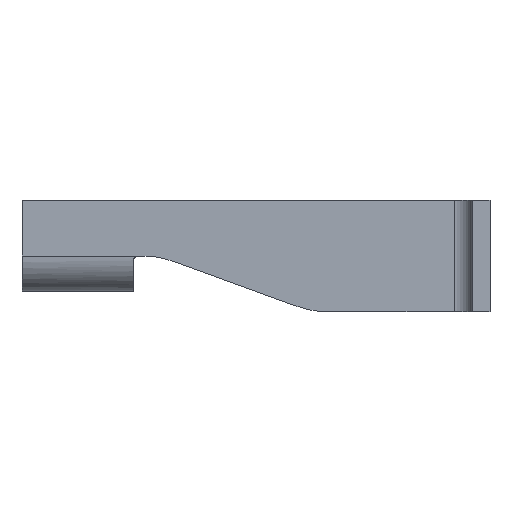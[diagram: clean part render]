
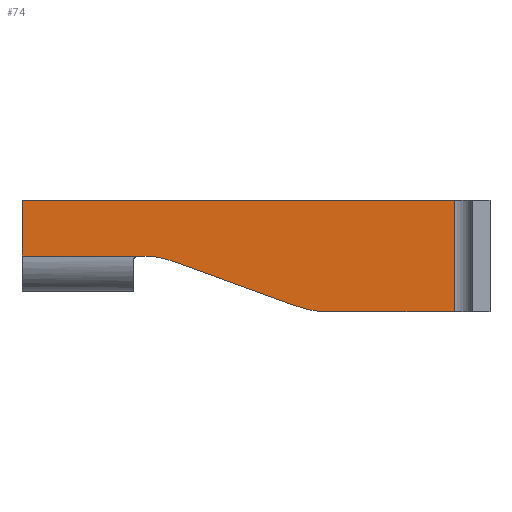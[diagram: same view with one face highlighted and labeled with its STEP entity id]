
A CAD part, front view. The second image highlights one B-rep face of the part: STEP entity #74.
In plain terms, the highlighted planar face has unit normal (0, -1, 0).
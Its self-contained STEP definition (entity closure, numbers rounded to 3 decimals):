
#74=ADVANCED_FACE('',(#112),#98,.T.);
#98=PLANE('',#496);
#112=FACE_OUTER_BOUND('',#129,.T.);
#129=EDGE_LOOP('',(#204,#205,#206,#207,#208,#209,#210,#211,#212));
#164=CIRCLE('',#494,20.);
#165=CIRCLE('',#495,20.);
#204=ORIENTED_EDGE('',*,*,#365,.T.);
#205=ORIENTED_EDGE('',*,*,#366,.T.);
#206=ORIENTED_EDGE('',*,*,#348,.T.);
#207=ORIENTED_EDGE('',*,*,#367,.T.);
#208=ORIENTED_EDGE('',*,*,#361,.F.);
#209=ORIENTED_EDGE('',*,*,#346,.F.);
#210=ORIENTED_EDGE('',*,*,#368,.T.);
#211=ORIENTED_EDGE('',*,*,#369,.T.);
#212=ORIENTED_EDGE('',*,*,#370,.T.);
#304=VERTEX_POINT('',#666);
#305=VERTEX_POINT('',#668);
#306=VERTEX_POINT('',#672);
#307=VERTEX_POINT('',#673);
#318=VERTEX_POINT('',#699);
#320=VERTEX_POINT('',#706);
#321=VERTEX_POINT('',#707);
#322=VERTEX_POINT('',#711);
#323=VERTEX_POINT('',#713);
#346=EDGE_CURVE('',#304,#305,#405,.T.);
#348=EDGE_CURVE('',#306,#307,#407,.T.);
#361=EDGE_CURVE('',#305,#318,#417,.T.);
#365=EDGE_CURVE('',#320,#321,#420,.T.);
#366=EDGE_CURVE('',#321,#306,#164,.T.);
#367=EDGE_CURVE('',#307,#318,#421,.T.);
#368=EDGE_CURVE('',#304,#322,#422,.T.);
#369=EDGE_CURVE('',#322,#323,#423,.T.);
#370=EDGE_CURVE('',#323,#320,#165,.T.);
#405=LINE('',#667,#446);
#407=LINE('',#671,#448);
#417=LINE('',#698,#458);
#420=LINE('',#705,#461);
#421=LINE('',#709,#462);
#422=LINE('',#710,#463);
#423=LINE('',#712,#464);
#446=VECTOR('',#536,1.);
#448=VECTOR('',#540,1.);
#458=VECTOR('',#560,1.);
#461=VECTOR('',#567,1.);
#462=VECTOR('',#570,1.);
#463=VECTOR('',#571,1.);
#464=VECTOR('',#572,1.);
#494=AXIS2_PLACEMENT_3D('',#708,#568,#569);
#495=AXIS2_PLACEMENT_3D('',#714,#573,#574);
#496=AXIS2_PLACEMENT_3D('',#715,#575,#576);
#536=DIRECTION('',(0.,0.,1.));
#540=DIRECTION('',(1.,0.,0.));
#560=DIRECTION('',(1.,0.,0.));
#567=DIRECTION('',(0.94,0.,-0.342));
#568=DIRECTION('',(0.,-1.,0.));
#569=DIRECTION('',(1.,0.,0.));
#570=DIRECTION('',(0.,0.,1.));
#571=DIRECTION('',(1.,0.,0.));
#572=DIRECTION('',(1.,0.,0.));
#573=DIRECTION('',(0.,1.,0.));
#574=DIRECTION('',(1.,0.,0.));
#575=DIRECTION('',(0.,-1.,0.));
#576=DIRECTION('',(1.,0.,0.));
#666=CARTESIAN_POINT('',(-105.,116.,12.5));
#667=CARTESIAN_POINT('',(-105.,116.,0.));
#668=CARTESIAN_POINT('',(-105.,116.,25.));
#671=CARTESIAN_POINT('',(-105.,116.,0.));
#672=CARTESIAN_POINT('',(-36.473,116.,0.));
#673=CARTESIAN_POINT('',(-8.,116.,0.));
#698=CARTESIAN_POINT('',(-105.,116.,25.));
#699=CARTESIAN_POINT('',(-8.,116.,25.));
#705=CARTESIAN_POINT('',(-97.396,116.,20.891));
#706=CARTESIAN_POINT('',(-71.03,116.,11.294));
#707=CARTESIAN_POINT('',(-43.314,116.,1.206));
#708=CARTESIAN_POINT('',(-36.473,116.,20.));
#709=CARTESIAN_POINT('',(-8.,116.,0.));
#710=CARTESIAN_POINT('',(-105.,116.,12.5));
#711=CARTESIAN_POINT('',(-79.,116.,12.5));
#712=CARTESIAN_POINT('',(-105.,116.,12.5));
#713=CARTESIAN_POINT('',(-77.87,116.,12.5));
#714=CARTESIAN_POINT('',(-77.87,116.,-7.5));
#715=CARTESIAN_POINT('',(-105.,116.,0.));
